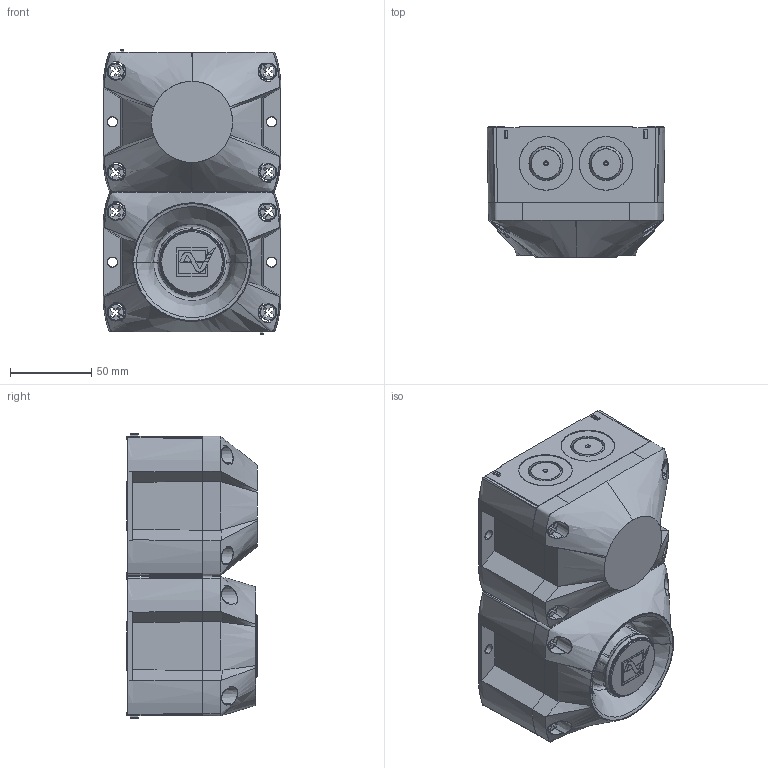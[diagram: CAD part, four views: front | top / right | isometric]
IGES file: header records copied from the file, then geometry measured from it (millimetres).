
Start section: SolidWorks IGES file using analytic representation for surfaces
Global section: file name: L:\3D Volumenmodelle\PATROL_PYRA\PA(X)1\PAX1_30303-100.IGS; native system: SolidWorks 2011; preprocessor: SolidWorks 2011; author: MMark; date: 120110.105508; units: millimetre
Bounding box: 109.61 x 80.6 x 175.4 mm (x, y, z)
Surface area: 124914.5 mm2 (no closed solid volume)
Topology: 0 solids, 0 shells, 584 faces, 8554 edges, 8551 vertices
Faces by surface type: bspline 375, revolution 209
